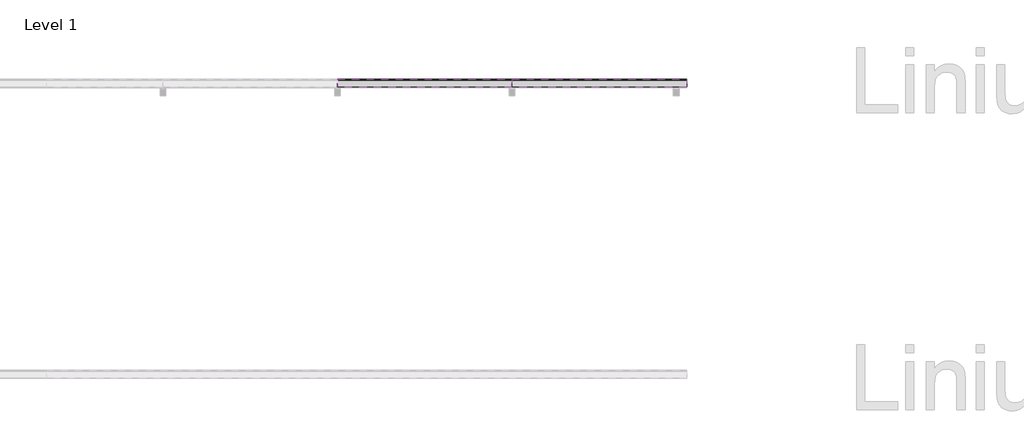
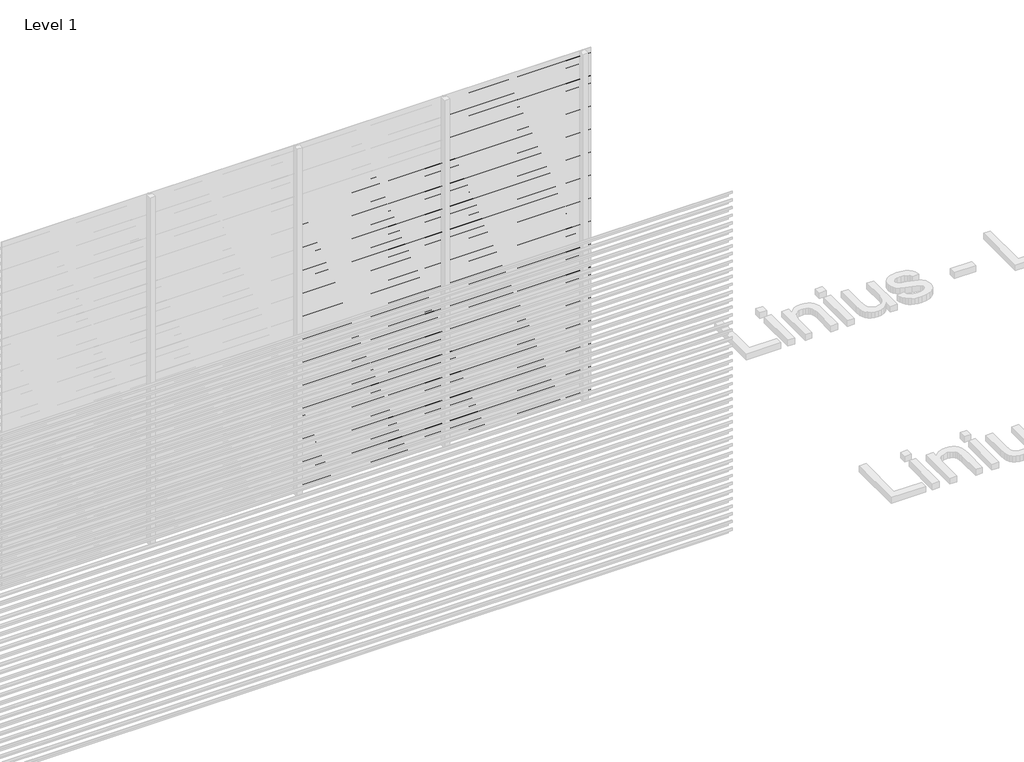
# One storey, part 69 of 540: 83 proxies.
"""IFC4 building model written with IfcOpenShell, lengths in millimetres."""

from ifc_helpers import new_model, si_unit, frame, origin, place, context, project, spatial, polyline, outline, extrude, element, save

model = new_model("IFC4")

# Units and contexts
model_context = context("Model", 3, world=origin())
ifc_project = project(units=[si_unit("LENGTHUNIT", "METRE", prefix="MILLI")], contexts=[model_context])

# Site, building, storey
site = spatial("IfcSite", under=ifc_project)
building = spatial("IfcBuilding", under=site)
storey = spatial("IfcBuildingStorey", under=building, Name="Level 1", Elevation=0.0)

# Proxies
placement = place(None, origin())
element("IfcBuildingElementProxy", 1, Name="Wall Sweeps", at=placement, inside=storey, context=model_context, shape_type="SweptSolid", body=[
    extrude(outline(polyline([(36581.0540136, 2913.5), (36581.0540136, 2893.5), (36579.8040136, 2894.2216933), (36579.8040136, 2912.7872415), (36526.0540136, 2950.3158044), (36526.0540136, 2970.0), (36527.3040136, 2970.0), (36527.3040136, 2951.0285629), (36581.0540136, 2913.5)])), frame((5266.6208095, 0.0, 0.0), z_axis=(1.0, 0.0, 0.0), x_axis=(0.0, 1.0, 0.0)), (0.0, 0.0, 1.0), 1200.0000002),
])
element("IfcBuildingElementProxy", 2, Name="Wall Sweeps", at=placement, inside=storey, context=model_context, shape_type="SweptSolid", body=[
    extrude(outline(polyline([(36581.0540136, 2847.5), (36581.0540136, 2827.5), (36579.8040136, 2828.2216933), (36579.8040136, 2846.7872415), (36526.0540136, 2884.3158044), (36526.0540136, 2904.0), (36527.3040136, 2904.0), (36527.3040136, 2885.0285629), (36581.0540136, 2847.5)])), frame((5266.6208095, 0.0, 0.0), z_axis=(1.0, 0.0, 0.0), x_axis=(0.0, 1.0, 0.0)), (0.0, 0.0, 1.0), 1200.0000002),
])
element("IfcBuildingElementProxy", 3, Name="Wall Sweeps", at=placement, inside=storey, context=model_context, shape_type="SweptSolid", body=[
    extrude(outline(polyline([(36581.0540136, 2781.5), (36581.0540136, 2761.5), (36579.8040136, 2762.2216933), (36579.8040136, 2780.7872415), (36526.0540136, 2818.3158044), (36526.0540136, 2838.0), (36527.3040136, 2838.0), (36527.3040136, 2819.0285629), (36581.0540136, 2781.5)])), frame((5266.6208095, 0.0, 0.0), z_axis=(1.0, 0.0, 0.0), x_axis=(0.0, 1.0, 0.0)), (0.0, 0.0, 1.0), 1200.0000002),
])
element("IfcBuildingElementProxy", 4, Name="Wall Sweeps", at=placement, inside=storey, context=model_context, shape_type="SweptSolid", body=[
    extrude(outline(polyline([(36581.0540136, 2715.5), (36581.0540136, 2695.5), (36579.8040136, 2696.2216933), (36579.8040136, 2714.7872415), (36526.0540136, 2752.3158044), (36526.0540136, 2772.0), (36527.3040136, 2772.0), (36527.3040136, 2753.0285629), (36581.0540136, 2715.5)])), frame((5266.6208095, 0.0, 0.0), z_axis=(1.0, 0.0, 0.0), x_axis=(0.0, 1.0, 0.0)), (0.0, 0.0, 1.0), 1200.0000002),
])
element("IfcBuildingElementProxy", 5, Name="Wall Sweeps", at=placement, inside=storey, context=model_context, shape_type="SweptSolid", body=[
    extrude(outline(polyline([(36581.0540136, 2649.5), (36581.0540136, 2629.5), (36579.8040136, 2630.2216933), (36579.8040136, 2648.7872415), (36526.0540136, 2686.3158044), (36526.0540136, 2706.0), (36527.3040136, 2706.0), (36527.3040136, 2687.0285629), (36581.0540136, 2649.5)])), frame((5266.6208095, 0.0, 0.0), z_axis=(1.0, 0.0, 0.0), x_axis=(0.0, 1.0, 0.0)), (0.0, 0.0, 1.0), 1200.0000002),
])
element("IfcBuildingElementProxy", 6, Name="Wall Sweeps", at=placement, inside=storey, context=model_context, shape_type="SweptSolid", body=[
    extrude(outline(polyline([(36581.0540136, 2583.5), (36581.0540136, 2563.5), (36579.8040136, 2564.2216933), (36579.8040136, 2582.7872415), (36526.0540136, 2620.3158044), (36526.0540136, 2640.0), (36527.3040136, 2640.0), (36527.3040136, 2621.0285629), (36581.0540136, 2583.5)])), frame((5266.6208095, 0.0, 0.0), z_axis=(1.0, 0.0, 0.0), x_axis=(0.0, 1.0, 0.0)), (0.0, 0.0, 1.0), 1200.0000002),
])
element("IfcBuildingElementProxy", 7, Name="Wall Sweeps", at=placement, inside=storey, context=model_context, shape_type="SweptSolid", body=[
    extrude(outline(polyline([(36581.0540136, 2517.5), (36581.0540136, 2497.5), (36579.8040136, 2498.2216933), (36579.8040136, 2516.7872415), (36526.0540136, 2554.3158044), (36526.0540136, 2574.0), (36527.3040136, 2574.0), (36527.3040136, 2555.0285629), (36581.0540136, 2517.5)])), frame((5266.6208095, 0.0, 0.0), z_axis=(1.0, 0.0, 0.0), x_axis=(0.0, 1.0, 0.0)), (0.0, 0.0, 1.0), 1200.0000002),
])
element("IfcBuildingElementProxy", 8, Name="Wall Sweeps", at=placement, inside=storey, context=model_context, shape_type="SweptSolid", body=[
    extrude(outline(polyline([(36581.0540136, 2451.5), (36581.0540136, 2431.5), (36579.8040136, 2432.2216933), (36579.8040136, 2450.7872415), (36526.0540136, 2488.3158044), (36526.0540136, 2508.0), (36527.3040136, 2508.0), (36527.3040136, 2489.0285629), (36581.0540136, 2451.5)])), frame((5266.6208095, 0.0, 0.0), z_axis=(1.0, 0.0, 0.0), x_axis=(0.0, 1.0, 0.0)), (0.0, 0.0, 1.0), 1200.0000002),
])
element("IfcBuildingElementProxy", 9, Name="Wall Sweeps", at=placement, inside=storey, context=model_context, shape_type="SweptSolid", body=[
    extrude(outline(polyline([(36581.0540136, 2385.5), (36581.0540136, 2365.5), (36579.8040136, 2366.2216933), (36579.8040136, 2384.7872415), (36526.0540136, 2422.3158044), (36526.0540136, 2442.0), (36527.3040136, 2442.0), (36527.3040136, 2423.0285629), (36581.0540136, 2385.5)])), frame((5266.6208095, 0.0, 0.0), z_axis=(1.0, 0.0, 0.0), x_axis=(0.0, 1.0, 0.0)), (0.0, 0.0, 1.0), 1200.0000002),
])
element("IfcBuildingElementProxy", 10, Name="Wall Sweeps", at=placement, inside=storey, context=model_context, shape_type="SweptSolid", body=[
    extrude(outline(polyline([(36581.0540136, 2319.5), (36581.0540136, 2299.5), (36579.8040136, 2300.2216933), (36579.8040136, 2318.7872415), (36526.0540136, 2356.3158044), (36526.0540136, 2376.0), (36527.3040136, 2376.0), (36527.3040136, 2357.0285629), (36581.0540136, 2319.5)])), frame((5266.6208095, 0.0, 0.0), z_axis=(1.0, 0.0, 0.0), x_axis=(0.0, 1.0, 0.0)), (0.0, 0.0, 1.0), 1200.0000002),
])
element("IfcBuildingElementProxy", 11, Name="Wall Sweeps", at=placement, inside=storey, context=model_context, shape_type="SweptSolid", body=[
    extrude(outline(polyline([(36581.0540136, 2253.5), (36581.0540136, 2233.5), (36579.8040136, 2234.2216933), (36579.8040136, 2252.7872415), (36526.0540136, 2290.3158044), (36526.0540136, 2310.0), (36527.3040136, 2310.0), (36527.3040136, 2291.0285629), (36581.0540136, 2253.5)])), frame((5266.6208095, 0.0, 0.0), z_axis=(1.0, 0.0, 0.0), x_axis=(0.0, 1.0, 0.0)), (0.0, 0.0, 1.0), 1200.0000002),
])
element("IfcBuildingElementProxy", 12, Name="Wall Sweeps", at=placement, inside=storey, context=model_context, shape_type="SweptSolid", body=[
    extrude(outline(polyline([(36581.0540136, 2187.5), (36581.0540136, 2167.5), (36579.8040136, 2168.2216933), (36579.8040136, 2186.7872415), (36526.0540136, 2224.3158044), (36526.0540136, 2244.0), (36527.3040136, 2244.0), (36527.3040136, 2225.0285629), (36581.0540136, 2187.5)])), frame((5266.6208095, 0.0, 0.0), z_axis=(1.0, 0.0, 0.0), x_axis=(0.0, 1.0, 0.0)), (0.0, 0.0, 1.0), 1200.0000002),
])
element("IfcBuildingElementProxy", 13, Name="Wall Sweeps", at=placement, inside=storey, context=model_context, shape_type="SweptSolid", body=[
    extrude(outline(polyline([(36581.0540136, 2121.5), (36581.0540136, 2101.5), (36579.8040136, 2102.2216933), (36579.8040136, 2120.7872415), (36526.0540136, 2158.3158044), (36526.0540136, 2178.0), (36527.3040136, 2178.0), (36527.3040136, 2159.0285629), (36581.0540136, 2121.5)])), frame((5266.6208095, 0.0, 0.0), z_axis=(1.0, 0.0, 0.0), x_axis=(0.0, 1.0, 0.0)), (0.0, 0.0, 1.0), 1200.0000002),
])
element("IfcBuildingElementProxy", 14, Name="Wall Sweeps", at=placement, inside=storey, context=model_context, shape_type="SweptSolid", body=[
    extrude(outline(polyline([(36581.0540136, 2055.5), (36581.0540136, 2035.5), (36579.8040136, 2036.2216933), (36579.8040136, 2054.7872415), (36526.0540136, 2092.3158044), (36526.0540136, 2112.0), (36527.3040136, 2112.0), (36527.3040136, 2093.0285629), (36581.0540136, 2055.5)])), frame((5266.6208095, 0.0, 0.0), z_axis=(1.0, 0.0, 0.0), x_axis=(0.0, 1.0, 0.0)), (0.0, 0.0, 1.0), 1200.0000002),
])
element("IfcBuildingElementProxy", 15, Name="Wall Sweeps", at=placement, inside=storey, context=model_context, shape_type="SweptSolid", body=[
    extrude(outline(polyline([(36581.0540136, 1989.5), (36581.0540136, 1969.5), (36579.8040136, 1970.2216933), (36579.8040136, 1988.7872415), (36526.0540136, 2026.3158044), (36526.0540136, 2046.0), (36527.3040136, 2046.0), (36527.3040136, 2027.0285629), (36581.0540136, 1989.5)])), frame((5266.6208095, 0.0, 0.0), z_axis=(1.0, 0.0, 0.0), x_axis=(0.0, 1.0, 0.0)), (0.0, 0.0, 1.0), 1200.0000002),
])
element("IfcBuildingElementProxy", 16, Name="Wall Sweeps", at=placement, inside=storey, context=model_context, shape_type="SweptSolid", body=[
    extrude(outline(polyline([(36581.0540136, 1923.5), (36581.0540136, 1903.5), (36579.8040136, 1904.2216933), (36579.8040136, 1922.7872415), (36526.0540136, 1960.3158044), (36526.0540136, 1980.0), (36527.3040136, 1980.0), (36527.3040136, 1961.0285629), (36581.0540136, 1923.5)])), frame((5266.6208095, 0.0, 0.0), z_axis=(1.0, 0.0, 0.0), x_axis=(0.0, 1.0, 0.0)), (0.0, 0.0, 1.0), 1200.0000002),
])
element("IfcBuildingElementProxy", 17, Name="Wall Sweeps", at=placement, inside=storey, context=model_context, shape_type="SweptSolid", body=[
    extrude(outline(polyline([(36581.0540136, 1857.5), (36581.0540136, 1837.5), (36579.8040136, 1838.2216933), (36579.8040136, 1856.7872415), (36526.0540136, 1894.3158044), (36526.0540136, 1914.0), (36527.3040136, 1914.0), (36527.3040136, 1895.0285629), (36581.0540136, 1857.5)])), frame((5266.6208095, 0.0, 0.0), z_axis=(1.0, 0.0, 0.0), x_axis=(0.0, 1.0, 0.0)), (0.0, 0.0, 1.0), 1200.0000002),
])
element("IfcBuildingElementProxy", 18, Name="Wall Sweeps", at=placement, inside=storey, context=model_context, shape_type="SweptSolid", body=[
    extrude(outline(polyline([(36581.0540136, 1791.5), (36581.0540136, 1771.5), (36579.8040136, 1772.2216933), (36579.8040136, 1790.7872415), (36526.0540136, 1828.3158044), (36526.0540136, 1848.0), (36527.3040136, 1848.0), (36527.3040136, 1829.0285629), (36581.0540136, 1791.5)])), frame((5266.6208095, 0.0, 0.0), z_axis=(1.0, 0.0, 0.0), x_axis=(0.0, 1.0, 0.0)), (0.0, 0.0, 1.0), 1200.0000002),
])
element("IfcBuildingElementProxy", 19, Name="Wall Sweeps", at=placement, inside=storey, context=model_context, shape_type="SweptSolid", body=[
    extrude(outline(polyline([(36581.0540136, 1725.5), (36581.0540136, 1705.5), (36579.8040136, 1706.2216933), (36579.8040136, 1724.7872415), (36526.0540136, 1762.3158044), (36526.0540136, 1782.0), (36527.3040136, 1782.0), (36527.3040136, 1763.0285629), (36581.0540136, 1725.5)])), frame((5266.6208095, 0.0, 0.0), z_axis=(1.0, 0.0, 0.0), x_axis=(0.0, 1.0, 0.0)), (0.0, 0.0, 1.0), 1200.0000002),
])
element("IfcBuildingElementProxy", 20, Name="Wall Sweeps", at=placement, inside=storey, context=model_context, shape_type="SweptSolid", body=[
    extrude(outline(polyline([(36581.0540136, 1659.5), (36581.0540136, 1639.5), (36579.8040136, 1640.2216933), (36579.8040136, 1658.7872415), (36526.0540136, 1696.3158044), (36526.0540136, 1716.0), (36527.3040136, 1716.0), (36527.3040136, 1697.0285629), (36581.0540136, 1659.5)])), frame((5266.6208095, 0.0, 0.0), z_axis=(1.0, 0.0, 0.0), x_axis=(0.0, 1.0, 0.0)), (0.0, 0.0, 1.0), 1200.0000002),
])
element("IfcBuildingElementProxy", 21, Name="Wall Sweeps", at=placement, inside=storey, context=model_context, shape_type="SweptSolid", body=[
    extrude(outline(polyline([(36581.0540136, 1593.5), (36581.0540136, 1573.5), (36579.8040136, 1574.2216933), (36579.8040136, 1592.7872415), (36526.0540136, 1630.3158044), (36526.0540136, 1650.0), (36527.3040136, 1650.0), (36527.3040136, 1631.0285629), (36581.0540136, 1593.5)])), frame((5266.6208095, 0.0, 0.0), z_axis=(1.0, 0.0, 0.0), x_axis=(0.0, 1.0, 0.0)), (0.0, 0.0, 1.0), 1200.0000002),
])
element("IfcBuildingElementProxy", 22, Name="Wall Sweeps", at=placement, inside=storey, context=model_context, shape_type="SweptSolid", body=[
    extrude(outline(polyline([(36581.0540136, 1527.5), (36581.0540136, 1507.5), (36579.8040136, 1508.2216933), (36579.8040136, 1526.7872415), (36526.0540136, 1564.3158044), (36526.0540136, 1584.0), (36527.3040136, 1584.0), (36527.3040136, 1565.0285629), (36581.0540136, 1527.5)])), frame((5266.6208095, 0.0, 0.0), z_axis=(1.0, 0.0, 0.0), x_axis=(0.0, 1.0, 0.0)), (0.0, 0.0, 1.0), 1200.0000002),
])
element("IfcBuildingElementProxy", 23, Name="Wall Sweeps", at=placement, inside=storey, context=model_context, shape_type="SweptSolid", body=[
    extrude(outline(polyline([(36581.0540136, 1461.5), (36581.0540136, 1441.5), (36579.8040136, 1442.2216933), (36579.8040136, 1460.7872415), (36526.0540136, 1498.3158044), (36526.0540136, 1518.0), (36527.3040136, 1518.0), (36527.3040136, 1499.0285629), (36581.0540136, 1461.5)])), frame((5266.6208095, 0.0, 0.0), z_axis=(1.0, 0.0, 0.0), x_axis=(0.0, 1.0, 0.0)), (0.0, 0.0, 1.0), 1200.0000002),
])
element("IfcBuildingElementProxy", 24, Name="Wall Sweeps", at=placement, inside=storey, context=model_context, shape_type="SweptSolid", body=[
    extrude(outline(polyline([(36581.0540136, 1395.5), (36581.0540136, 1375.5), (36579.8040136, 1376.2216933), (36579.8040136, 1394.7872415), (36526.0540136, 1432.3158044), (36526.0540136, 1452.0), (36527.3040136, 1452.0), (36527.3040136, 1433.0285629), (36581.0540136, 1395.5)])), frame((5266.6208095, 0.0, 0.0), z_axis=(1.0, 0.0, 0.0), x_axis=(0.0, 1.0, 0.0)), (0.0, 0.0, 1.0), 1200.0000002),
])
element("IfcBuildingElementProxy", 25, Name="Wall Sweeps", at=placement, inside=storey, context=model_context, shape_type="SweptSolid", body=[
    extrude(outline(polyline([(36581.0540136, 1329.5), (36581.0540136, 1309.5), (36579.8040136, 1310.2216933), (36579.8040136, 1328.7872415), (36526.0540136, 1366.3158044), (36526.0540136, 1386.0), (36527.3040136, 1386.0), (36527.3040136, 1367.0285629), (36581.0540136, 1329.5)])), frame((5266.6208095, 0.0, 0.0), z_axis=(1.0, 0.0, 0.0), x_axis=(0.0, 1.0, 0.0)), (0.0, 0.0, 1.0), 1200.0000002),
])
element("IfcBuildingElementProxy", 26, Name="Wall Sweeps", at=placement, inside=storey, context=model_context, shape_type="SweptSolid", body=[
    extrude(outline(polyline([(36581.0540136, 1263.5), (36581.0540136, 1243.5), (36579.8040136, 1244.2216933), (36579.8040136, 1262.7872415), (36526.0540136, 1300.3158044), (36526.0540136, 1320.0), (36527.3040136, 1320.0), (36527.3040136, 1301.0285629), (36581.0540136, 1263.5)])), frame((5266.6208095, 0.0, 0.0), z_axis=(1.0, 0.0, 0.0), x_axis=(0.0, 1.0, 0.0)), (0.0, 0.0, 1.0), 1200.0000002),
])
element("IfcBuildingElementProxy", 27, Name="Wall Sweeps", at=placement, inside=storey, context=model_context, shape_type="SweptSolid", body=[
    extrude(outline(polyline([(36581.0540136, 1197.5), (36581.0540136, 1177.5), (36579.8040136, 1178.2216933), (36579.8040136, 1196.7872415), (36526.0540136, 1234.3158044), (36526.0540136, 1254.0), (36527.3040136, 1254.0), (36527.3040136, 1235.0285629), (36581.0540136, 1197.5)])), frame((5266.6208095, 0.0, 0.0), z_axis=(1.0, 0.0, 0.0), x_axis=(0.0, 1.0, 0.0)), (0.0, 0.0, 1.0), 1200.0000002),
])
element("IfcBuildingElementProxy", 28, Name="Wall Sweeps", at=placement, inside=storey, context=model_context, shape_type="SweptSolid", body=[
    extrude(outline(polyline([(36581.0540136, 1131.5), (36581.0540136, 1111.5), (36579.8040136, 1112.2216933), (36579.8040136, 1130.7872415), (36526.0540136, 1168.3158044), (36526.0540136, 1188.0), (36527.3040136, 1188.0), (36527.3040136, 1169.0285629), (36581.0540136, 1131.5)])), frame((5266.6208095, 0.0, 0.0), z_axis=(1.0, 0.0, 0.0), x_axis=(0.0, 1.0, 0.0)), (0.0, 0.0, 1.0), 1200.0000002),
])
element("IfcBuildingElementProxy", 29, Name="Wall Sweeps", at=placement, inside=storey, context=model_context, shape_type="SweptSolid", body=[
    extrude(outline(polyline([(36581.0540136, 1065.5), (36581.0540136, 1045.5), (36579.8040136, 1046.2216933), (36579.8040136, 1064.7872415), (36526.0540136, 1102.3158044), (36526.0540136, 1122.0), (36527.3040136, 1122.0), (36527.3040136, 1103.0285629), (36581.0540136, 1065.5)])), frame((5266.6208095, 0.0, 0.0), z_axis=(1.0, 0.0, 0.0), x_axis=(0.0, 1.0, 0.0)), (0.0, 0.0, 1.0), 1200.0000002),
])
element("IfcBuildingElementProxy", 30, Name="Wall Sweeps", at=placement, inside=storey, context=model_context, shape_type="SweptSolid", body=[
    extrude(outline(polyline([(36581.0540136, 999.5), (36581.0540136, 979.5), (36579.8040136, 980.2216933), (36579.8040136, 998.7872415), (36526.0540136, 1036.3158044), (36526.0540136, 1056.0), (36527.3040136, 1056.0), (36527.3040136, 1037.0285629), (36581.0540136, 999.5)])), frame((5266.6208095, 0.0, 0.0), z_axis=(1.0, 0.0, 0.0), x_axis=(0.0, 1.0, 0.0)), (0.0, 0.0, 1.0), 1200.0000002),
])
element("IfcBuildingElementProxy", 31, Name="Wall Sweeps", at=placement, inside=storey, context=model_context, shape_type="SweptSolid", body=[
    extrude(outline(polyline([(36581.0540136, 933.5), (36581.0540136, 913.5), (36579.8040136, 914.2216933), (36579.8040136, 932.7872415), (36526.0540136, 970.3158044), (36526.0540136, 990.0), (36527.3040136, 990.0), (36527.3040136, 971.0285629), (36581.0540136, 933.5)])), frame((5266.6208095, 0.0, 0.0), z_axis=(1.0, 0.0, 0.0), x_axis=(0.0, 1.0, 0.0)), (0.0, 0.0, 1.0), 1200.0000002),
])
element("IfcBuildingElementProxy", 32, Name="Wall Sweeps", at=placement, inside=storey, context=model_context, shape_type="SweptSolid", body=[
    extrude(outline(polyline([(36581.0540136, 867.5), (36581.0540136, 847.5), (36579.8040136, 848.2216933), (36579.8040136, 866.7872415), (36526.0540136, 904.3158044), (36526.0540136, 924.0), (36527.3040136, 924.0), (36527.3040136, 905.0285629), (36581.0540136, 867.5)])), frame((5266.6208095, 0.0, 0.0), z_axis=(1.0, 0.0, 0.0), x_axis=(0.0, 1.0, 0.0)), (0.0, 0.0, 1.0), 1200.0000002),
])
element("IfcBuildingElementProxy", 33, Name="Wall Sweeps", at=placement, inside=storey, context=model_context, shape_type="SweptSolid", body=[
    extrude(outline(polyline([(36581.0540136, 801.5), (36581.0540136, 781.5), (36579.8040136, 782.2216933), (36579.8040136, 800.7872415), (36526.0540136, 838.3158044), (36526.0540136, 858.0), (36527.3040136, 858.0), (36527.3040136, 839.0285629), (36581.0540136, 801.5)])), frame((5266.6208095, 0.0, 0.0), z_axis=(1.0, 0.0, 0.0), x_axis=(0.0, 1.0, 0.0)), (0.0, 0.0, 1.0), 1200.0000002),
])
element("IfcBuildingElementProxy", 34, Name="Wall Sweeps", at=placement, inside=storey, context=model_context, shape_type="SweptSolid", body=[
    extrude(outline(polyline([(36581.0540136, 735.5), (36581.0540136, 715.5), (36579.8040136, 716.2216933), (36579.8040136, 734.7872415), (36526.0540136, 772.3158044), (36526.0540136, 792.0), (36527.3040136, 792.0), (36527.3040136, 773.0285629), (36581.0540136, 735.5)])), frame((5266.6208095, 0.0, 0.0), z_axis=(1.0, 0.0, 0.0), x_axis=(0.0, 1.0, 0.0)), (0.0, 0.0, 1.0), 1200.0000002),
])
element("IfcBuildingElementProxy", 35, Name="Wall Sweeps", at=placement, inside=storey, context=model_context, shape_type="SweptSolid", body=[
    extrude(outline(polyline([(36581.0540136, 669.5), (36581.0540136, 649.5), (36579.8040136, 650.2216933), (36579.8040136, 668.7872415), (36526.0540136, 706.3158044), (36526.0540136, 726.0), (36527.3040136, 726.0), (36527.3040136, 707.0285629), (36581.0540136, 669.5)])), frame((5266.6208095, 0.0, 0.0), z_axis=(1.0, 0.0, 0.0), x_axis=(0.0, 1.0, 0.0)), (0.0, 0.0, 1.0), 1200.0000002),
])
element("IfcBuildingElementProxy", 36, Name="Wall Sweeps", at=placement, inside=storey, context=model_context, shape_type="SweptSolid", body=[
    extrude(outline(polyline([(36581.0540136, 603.5), (36581.0540136, 583.5), (36579.8040136, 584.2216933), (36579.8040136, 602.7872415), (36526.0540136, 640.3158044), (36526.0540136, 660.0), (36527.3040136, 660.0), (36527.3040136, 641.0285629), (36581.0540136, 603.5)])), frame((5266.6208095, 0.0, 0.0), z_axis=(1.0, 0.0, 0.0), x_axis=(0.0, 1.0, 0.0)), (0.0, 0.0, 1.0), 1200.0000002),
])
element("IfcBuildingElementProxy", 37, Name="Wall Sweeps", at=placement, inside=storey, context=model_context, shape_type="SweptSolid", body=[
    extrude(outline(polyline([(36581.0540136, 537.5), (36581.0540136, 517.5), (36579.8040136, 518.2216933), (36579.8040136, 536.7872415), (36526.0540136, 574.3158044), (36526.0540136, 594.0), (36527.3040136, 594.0), (36527.3040136, 575.0285629), (36581.0540136, 537.5)])), frame((5266.6208095, 0.0, 0.0), z_axis=(1.0, 0.0, 0.0), x_axis=(0.0, 1.0, 0.0)), (0.0, 0.0, 1.0), 1200.0000002),
])
element("IfcBuildingElementProxy", 38, Name="Wall Sweeps", at=placement, inside=storey, context=model_context, shape_type="SweptSolid", body=[
    extrude(outline(polyline([(36581.0540136, 471.5), (36581.0540136, 451.5), (36579.8040136, 452.2216933), (36579.8040136, 470.7872415), (36526.0540136, 508.3158044), (36526.0540136, 528.0), (36527.3040136, 528.0), (36527.3040136, 509.0285629), (36581.0540136, 471.5)])), frame((5266.6208095, 0.0, 0.0), z_axis=(1.0, 0.0, 0.0), x_axis=(0.0, 1.0, 0.0)), (0.0, 0.0, 1.0), 1200.0000002),
])
element("IfcBuildingElementProxy", 39, Name="Wall Sweeps", at=placement, inside=storey, context=model_context, shape_type="SweptSolid", body=[
    extrude(outline(polyline([(36581.0540136, 405.5), (36581.0540136, 385.5), (36579.8040136, 386.2216933), (36579.8040136, 404.7872415), (36526.0540136, 442.3158044), (36526.0540136, 462.0), (36527.3040136, 462.0), (36527.3040136, 443.0285629), (36581.0540136, 405.5)])), frame((5266.6208095, 0.0, 0.0), z_axis=(1.0, 0.0, 0.0), x_axis=(0.0, 1.0, 0.0)), (0.0, 0.0, 1.0), 1200.0000002),
])
element("IfcBuildingElementProxy", 40, Name="Wall Sweeps", at=placement, inside=storey, context=model_context, shape_type="SweptSolid", body=[
    extrude(outline(polyline([(36581.0540136, 339.5), (36581.0540136, 319.5), (36579.8040136, 320.2216933), (36579.8040136, 338.7872415), (36526.0540136, 376.3158044), (36526.0540136, 396.0), (36527.3040136, 396.0), (36527.3040136, 377.0285629), (36581.0540136, 339.5)])), frame((5266.6208095, 0.0, 0.0), z_axis=(1.0, 0.0, 0.0), x_axis=(0.0, 1.0, 0.0)), (0.0, 0.0, 1.0), 1200.0000002),
])
element("IfcBuildingElementProxy", 41, Name="Wall Sweeps", at=placement, inside=storey, context=model_context, shape_type="SweptSolid", body=[
    extrude(outline(polyline([(36581.0540136, 273.5), (36581.0540136, 253.5), (36579.8040136, 254.2216933), (36579.8040136, 272.7872415), (36526.0540136, 310.3158044), (36526.0540136, 330.0), (36527.3040136, 330.0), (36527.3040136, 311.0285629), (36581.0540136, 273.5)])), frame((5266.6208095, 0.0, 0.0), z_axis=(1.0, 0.0, 0.0), x_axis=(0.0, 1.0, 0.0)), (0.0, 0.0, 1.0), 1200.0000002),
])
element("IfcBuildingElementProxy", 42, Name="Wall Sweeps", at=placement, inside=storey, context=model_context, shape_type="SweptSolid", body=[
    extrude(outline(polyline([(36581.0540136, 207.5), (36581.0540136, 187.5), (36579.8040136, 188.2216933), (36579.8040136, 206.7872415), (36526.0540136, 244.3158044), (36526.0540136, 264.0), (36527.3040136, 264.0), (36527.3040136, 245.0285629), (36581.0540136, 207.5)])), frame((5266.6208095, 0.0, 0.0), z_axis=(1.0, 0.0, 0.0), x_axis=(0.0, 1.0, 0.0)), (0.0, 0.0, 1.0), 1200.0000002),
])
element("IfcBuildingElementProxy", 43, Name="Wall Sweeps", at=placement, inside=storey, context=model_context, shape_type="SweptSolid", body=[
    extrude(outline(polyline([(36581.0540136, 141.5), (36581.0540136, 121.5), (36579.8040136, 122.2216933), (36579.8040136, 140.7872415), (36526.0540136, 178.3158044), (36526.0540136, 198.0), (36527.3040136, 198.0), (36527.3040136, 179.0285629), (36581.0540136, 141.5)])), frame((5266.6208095, 0.0, 0.0), z_axis=(1.0, 0.0, 0.0), x_axis=(0.0, 1.0, 0.0)), (0.0, 0.0, 1.0), 1200.0000002),
])
element("IfcBuildingElementProxy", 44, Name="Wall Sweeps", at=placement, inside=storey, context=model_context, shape_type="SweptSolid", body=[
    extrude(outline(polyline([(36581.0540136, 75.5), (36581.0540136, 55.5), (36579.8040136, 56.2216933), (36579.8040136, 74.7872415), (36526.0540136, 112.3158044), (36526.0540136, 132.0), (36527.3040136, 132.0), (36527.3040136, 113.0285629), (36581.0540136, 75.5)])), frame((5266.6208095, 0.0, 0.0), z_axis=(1.0, 0.0, 0.0), x_axis=(0.0, 1.0, 0.0)), (0.0, 0.0, 1.0), 1200.0000002),
])
element("IfcBuildingElementProxy", 45, Name="Wall Sweeps", at=placement, inside=storey, context=model_context, shape_type="SweptSolid", body=[
    extrude(outline(polyline([(36581.0540136, 9.5), (36581.0540136, -10.5), (36579.8040136, -9.7783067), (36579.8040136, 8.7872415), (36526.0540136, 46.3158044), (36526.0540136, 66.0), (36527.3040136, 66.0), (36527.3040136, 47.0285629), (36581.0540136, 9.5)])), frame((5266.6208095, 0.0, 0.0), z_axis=(1.0, 0.0, 0.0), x_axis=(0.0, 1.0, 0.0)), (0.0, 0.0, 1.0), 1200.0000002),
])
element("IfcBuildingElementProxy", 46, Name="Wall Sweeps", at=placement, inside=storey, context=model_context, shape_type="SweptSolid", body=[
    extrude(outline(polyline([(36581.0540136, 2451.5), (36581.0540136, 2431.5), (36579.8040136, 2432.2216933), (36579.8040136, 2450.7872415), (36526.0540136, 2488.3158044), (36526.0540136, 2508.0), (36527.3040136, 2508.0), (36527.3040136, 2489.0285629), (36581.0540136, 2451.5)])), frame((4066.6208096, 0.0, 0.0), z_axis=(1.0, 0.0, 0.0), x_axis=(0.0, 1.0, 0.0)), (0.0, 0.0, 1.0), 1199.9999999),
])
element("IfcBuildingElementProxy", 47, Name="Wall Sweeps", at=placement, inside=storey, context=model_context, shape_type="SweptSolid", body=[
    extrude(outline(polyline([(36581.0540136, 2385.5), (36581.0540136, 2365.5), (36579.8040136, 2366.2216933), (36579.8040136, 2384.7872415), (36526.0540136, 2422.3158044), (36526.0540136, 2442.0), (36527.3040136, 2442.0), (36527.3040136, 2423.0285629), (36581.0540136, 2385.5)])), frame((4066.6208096, 0.0, 0.0), z_axis=(1.0, 0.0, 0.0), x_axis=(0.0, 1.0, 0.0)), (0.0, 0.0, 1.0), 1199.9999999),
])
element("IfcBuildingElementProxy", 48, Name="Wall Sweeps", at=placement, inside=storey, context=model_context, shape_type="SweptSolid", body=[
    extrude(outline(polyline([(36581.0540136, 2319.5), (36581.0540136, 2299.5), (36579.8040136, 2300.2216933), (36579.8040136, 2318.7872415), (36526.0540136, 2356.3158044), (36526.0540136, 2376.0), (36527.3040136, 2376.0), (36527.3040136, 2357.0285629), (36581.0540136, 2319.5)])), frame((4066.6208096, 0.0, 0.0), z_axis=(1.0, 0.0, 0.0), x_axis=(0.0, 1.0, 0.0)), (0.0, 0.0, 1.0), 1199.9999999),
])
element("IfcBuildingElementProxy", 49, Name="Wall Sweeps", at=placement, inside=storey, context=model_context, shape_type="SweptSolid", body=[
    extrude(outline(polyline([(36581.0540136, 2253.5), (36581.0540136, 2233.5), (36579.8040136, 2234.2216933), (36579.8040136, 2252.7872415), (36526.0540136, 2290.3158044), (36526.0540136, 2310.0), (36527.3040136, 2310.0), (36527.3040136, 2291.0285629), (36581.0540136, 2253.5)])), frame((4066.6208096, 0.0, 0.0), z_axis=(1.0, 0.0, 0.0), x_axis=(0.0, 1.0, 0.0)), (0.0, 0.0, 1.0), 1199.9999999),
])
element("IfcBuildingElementProxy", 50, Name="Wall Sweeps", at=placement, inside=storey, context=model_context, shape_type="SweptSolid", body=[
    extrude(outline(polyline([(36581.0540136, 2187.5), (36581.0540136, 2167.5), (36579.8040136, 2168.2216933), (36579.8040136, 2186.7872415), (36526.0540136, 2224.3158044), (36526.0540136, 2244.0), (36527.3040136, 2244.0), (36527.3040136, 2225.0285629), (36581.0540136, 2187.5)])), frame((4066.6208096, 0.0, 0.0), z_axis=(1.0, 0.0, 0.0), x_axis=(0.0, 1.0, 0.0)), (0.0, 0.0, 1.0), 1199.9999999),
])
element("IfcBuildingElementProxy", 51, Name="Wall Sweeps", at=placement, inside=storey, context=model_context, shape_type="SweptSolid", body=[
    extrude(outline(polyline([(36581.0540136, 2121.5), (36581.0540136, 2101.5), (36579.8040136, 2102.2216933), (36579.8040136, 2120.7872415), (36526.0540136, 2158.3158044), (36526.0540136, 2178.0), (36527.3040136, 2178.0), (36527.3040136, 2159.0285629), (36581.0540136, 2121.5)])), frame((4066.6208096, 0.0, 0.0), z_axis=(1.0, 0.0, 0.0), x_axis=(0.0, 1.0, 0.0)), (0.0, 0.0, 1.0), 1199.9999999),
])
element("IfcBuildingElementProxy", 52, Name="Wall Sweeps", at=placement, inside=storey, context=model_context, shape_type="SweptSolid", body=[
    extrude(outline(polyline([(36581.0540136, 2055.5), (36581.0540136, 2035.5), (36579.8040136, 2036.2216933), (36579.8040136, 2054.7872415), (36526.0540136, 2092.3158044), (36526.0540136, 2112.0), (36527.3040136, 2112.0), (36527.3040136, 2093.0285629), (36581.0540136, 2055.5)])), frame((4066.6208096, 0.0, 0.0), z_axis=(1.0, 0.0, 0.0), x_axis=(0.0, 1.0, 0.0)), (0.0, 0.0, 1.0), 1199.9999999),
])
element("IfcBuildingElementProxy", 53, Name="Wall Sweeps", at=placement, inside=storey, context=model_context, shape_type="SweptSolid", body=[
    extrude(outline(polyline([(36581.0540136, 1989.5), (36581.0540136, 1969.5), (36579.8040136, 1970.2216933), (36579.8040136, 1988.7872415), (36526.0540136, 2026.3158044), (36526.0540136, 2046.0), (36527.3040136, 2046.0), (36527.3040136, 2027.0285629), (36581.0540136, 1989.5)])), frame((4066.6208096, 0.0, 0.0), z_axis=(1.0, 0.0, 0.0), x_axis=(0.0, 1.0, 0.0)), (0.0, 0.0, 1.0), 1199.9999999),
])
element("IfcBuildingElementProxy", 54, Name="Wall Sweeps", at=placement, inside=storey, context=model_context, shape_type="SweptSolid", body=[
    extrude(outline(polyline([(36581.0540136, 1923.5), (36581.0540136, 1903.5), (36579.8040136, 1904.2216933), (36579.8040136, 1922.7872415), (36526.0540136, 1960.3158044), (36526.0540136, 1980.0), (36527.3040136, 1980.0), (36527.3040136, 1961.0285629), (36581.0540136, 1923.5)])), frame((4066.6208096, 0.0, 0.0), z_axis=(1.0, 0.0, 0.0), x_axis=(0.0, 1.0, 0.0)), (0.0, 0.0, 1.0), 1199.9999999),
])
element("IfcBuildingElementProxy", 55, Name="Wall Sweeps", at=placement, inside=storey, context=model_context, shape_type="SweptSolid", body=[
    extrude(outline(polyline([(36581.0540136, 1857.5), (36581.0540136, 1837.5), (36579.8040136, 1838.2216933), (36579.8040136, 1856.7872415), (36526.0540136, 1894.3158044), (36526.0540136, 1914.0), (36527.3040136, 1914.0), (36527.3040136, 1895.0285629), (36581.0540136, 1857.5)])), frame((4066.6208096, 0.0, 0.0), z_axis=(1.0, 0.0, 0.0), x_axis=(0.0, 1.0, 0.0)), (0.0, 0.0, 1.0), 1199.9999999),
])
element("IfcBuildingElementProxy", 56, Name="Wall Sweeps", at=placement, inside=storey, context=model_context, shape_type="SweptSolid", body=[
    extrude(outline(polyline([(36581.0540136, 1791.5), (36581.0540136, 1771.5), (36579.8040136, 1772.2216933), (36579.8040136, 1790.7872415), (36526.0540136, 1828.3158044), (36526.0540136, 1848.0), (36527.3040136, 1848.0), (36527.3040136, 1829.0285629), (36581.0540136, 1791.5)])), frame((4066.6208096, 0.0, 0.0), z_axis=(1.0, 0.0, 0.0), x_axis=(0.0, 1.0, 0.0)), (0.0, 0.0, 1.0), 1199.9999999),
])
element("IfcBuildingElementProxy", 57, Name="Wall Sweeps", at=placement, inside=storey, context=model_context, shape_type="SweptSolid", body=[
    extrude(outline(polyline([(36581.0540136, 1725.5), (36581.0540136, 1705.5), (36579.8040136, 1706.2216933), (36579.8040136, 1724.7872415), (36526.0540136, 1762.3158044), (36526.0540136, 1782.0), (36527.3040136, 1782.0), (36527.3040136, 1763.0285629), (36581.0540136, 1725.5)])), frame((4066.6208096, 0.0, 0.0), z_axis=(1.0, 0.0, 0.0), x_axis=(0.0, 1.0, 0.0)), (0.0, 0.0, 1.0), 1199.9999999),
])
element("IfcBuildingElementProxy", 58, Name="Wall Sweeps", at=placement, inside=storey, context=model_context, shape_type="SweptSolid", body=[
    extrude(outline(polyline([(36581.0540136, 1659.5), (36581.0540136, 1639.5), (36579.8040136, 1640.2216933), (36579.8040136, 1658.7872415), (36526.0540136, 1696.3158044), (36526.0540136, 1716.0), (36527.3040136, 1716.0), (36527.3040136, 1697.0285629), (36581.0540136, 1659.5)])), frame((4066.6208096, 0.0, 0.0), z_axis=(1.0, 0.0, 0.0), x_axis=(0.0, 1.0, 0.0)), (0.0, 0.0, 1.0), 1199.9999999),
])
element("IfcBuildingElementProxy", 59, Name="Wall Sweeps", at=placement, inside=storey, context=model_context, shape_type="SweptSolid", body=[
    extrude(outline(polyline([(36581.0540136, 1593.5), (36581.0540136, 1573.5), (36579.8040136, 1574.2216933), (36579.8040136, 1592.7872415), (36526.0540136, 1630.3158044), (36526.0540136, 1650.0), (36527.3040136, 1650.0), (36527.3040136, 1631.0285629), (36581.0540136, 1593.5)])), frame((4066.6208096, 0.0, 0.0), z_axis=(1.0, 0.0, 0.0), x_axis=(0.0, 1.0, 0.0)), (0.0, 0.0, 1.0), 1199.9999999),
])
element("IfcBuildingElementProxy", 60, Name="Wall Sweeps", at=placement, inside=storey, context=model_context, shape_type="SweptSolid", body=[
    extrude(outline(polyline([(36581.0540136, 1527.5), (36581.0540136, 1507.5), (36579.8040136, 1508.2216933), (36579.8040136, 1526.7872415), (36526.0540136, 1564.3158044), (36526.0540136, 1584.0), (36527.3040136, 1584.0), (36527.3040136, 1565.0285629), (36581.0540136, 1527.5)])), frame((4066.6208096, 0.0, 0.0), z_axis=(1.0, 0.0, 0.0), x_axis=(0.0, 1.0, 0.0)), (0.0, 0.0, 1.0), 1199.9999999),
])
element("IfcBuildingElementProxy", 61, Name="Wall Sweeps", at=placement, inside=storey, context=model_context, shape_type="SweptSolid", body=[
    extrude(outline(polyline([(36581.0540136, 1461.5), (36581.0540136, 1441.5), (36579.8040136, 1442.2216933), (36579.8040136, 1460.7872415), (36526.0540136, 1498.3158044), (36526.0540136, 1518.0), (36527.3040136, 1518.0), (36527.3040136, 1499.0285629), (36581.0540136, 1461.5)])), frame((4066.6208096, 0.0, 0.0), z_axis=(1.0, 0.0, 0.0), x_axis=(0.0, 1.0, 0.0)), (0.0, 0.0, 1.0), 1199.9999999),
])
element("IfcBuildingElementProxy", 62, Name="Wall Sweeps", at=placement, inside=storey, context=model_context, shape_type="SweptSolid", body=[
    extrude(outline(polyline([(36581.0540136, 1395.5), (36581.0540136, 1375.5), (36579.8040136, 1376.2216933), (36579.8040136, 1394.7872415), (36526.0540136, 1432.3158044), (36526.0540136, 1452.0), (36527.3040136, 1452.0), (36527.3040136, 1433.0285629), (36581.0540136, 1395.5)])), frame((4066.6208096, 0.0, 0.0), z_axis=(1.0, 0.0, 0.0), x_axis=(0.0, 1.0, 0.0)), (0.0, 0.0, 1.0), 1199.9999999),
])
element("IfcBuildingElementProxy", 63, Name="Wall Sweeps", at=placement, inside=storey, context=model_context, shape_type="SweptSolid", body=[
    extrude(outline(polyline([(36581.0540136, 1329.5), (36581.0540136, 1309.5), (36579.8040136, 1310.2216933), (36579.8040136, 1328.7872415), (36526.0540136, 1366.3158044), (36526.0540136, 1386.0), (36527.3040136, 1386.0), (36527.3040136, 1367.0285629), (36581.0540136, 1329.5)])), frame((4066.6208096, 0.0, 0.0), z_axis=(1.0, 0.0, 0.0), x_axis=(0.0, 1.0, 0.0)), (0.0, 0.0, 1.0), 1199.9999999),
])
element("IfcBuildingElementProxy", 64, Name="Wall Sweeps", at=placement, inside=storey, context=model_context, shape_type="SweptSolid", body=[
    extrude(outline(polyline([(36581.0540136, 1263.5), (36581.0540136, 1243.5), (36579.8040136, 1244.2216933), (36579.8040136, 1262.7872415), (36526.0540136, 1300.3158044), (36526.0540136, 1320.0), (36527.3040136, 1320.0), (36527.3040136, 1301.0285629), (36581.0540136, 1263.5)])), frame((4066.6208096, 0.0, 0.0), z_axis=(1.0, 0.0, 0.0), x_axis=(0.0, 1.0, 0.0)), (0.0, 0.0, 1.0), 1199.9999999),
])
element("IfcBuildingElementProxy", 65, Name="Wall Sweeps", at=placement, inside=storey, context=model_context, shape_type="SweptSolid", body=[
    extrude(outline(polyline([(36581.0540136, 1197.5), (36581.0540136, 1177.5), (36579.8040136, 1178.2216933), (36579.8040136, 1196.7872415), (36526.0540136, 1234.3158044), (36526.0540136, 1254.0), (36527.3040136, 1254.0), (36527.3040136, 1235.0285629), (36581.0540136, 1197.5)])), frame((4066.6208096, 0.0, 0.0), z_axis=(1.0, 0.0, 0.0), x_axis=(0.0, 1.0, 0.0)), (0.0, 0.0, 1.0), 1199.9999999),
])
element("IfcBuildingElementProxy", 66, Name="Wall Sweeps", at=placement, inside=storey, context=model_context, shape_type="SweptSolid", body=[
    extrude(outline(polyline([(36581.0540136, 1131.5), (36581.0540136, 1111.5), (36579.8040136, 1112.2216933), (36579.8040136, 1130.7872415), (36526.0540136, 1168.3158044), (36526.0540136, 1188.0), (36527.3040136, 1188.0), (36527.3040136, 1169.0285629), (36581.0540136, 1131.5)])), frame((4066.6208096, 0.0, 0.0), z_axis=(1.0, 0.0, 0.0), x_axis=(0.0, 1.0, 0.0)), (0.0, 0.0, 1.0), 1199.9999999),
])
element("IfcBuildingElementProxy", 67, Name="Wall Sweeps", at=placement, inside=storey, context=model_context, shape_type="SweptSolid", body=[
    extrude(outline(polyline([(36581.0540136, 1065.5), (36581.0540136, 1045.5), (36579.8040136, 1046.2216933), (36579.8040136, 1064.7872415), (36526.0540136, 1102.3158044), (36526.0540136, 1122.0), (36527.3040136, 1122.0), (36527.3040136, 1103.0285629), (36581.0540136, 1065.5)])), frame((4066.6208096, 0.0, 0.0), z_axis=(1.0, 0.0, 0.0), x_axis=(0.0, 1.0, 0.0)), (0.0, 0.0, 1.0), 1199.9999999),
])
element("IfcBuildingElementProxy", 68, Name="Wall Sweeps", at=placement, inside=storey, context=model_context, shape_type="SweptSolid", body=[
    extrude(outline(polyline([(36581.0540136, 999.5), (36581.0540136, 979.5), (36579.8040136, 980.2216933), (36579.8040136, 998.7872415), (36526.0540136, 1036.3158044), (36526.0540136, 1056.0), (36527.3040136, 1056.0), (36527.3040136, 1037.0285629), (36581.0540136, 999.5)])), frame((4066.6208096, 0.0, 0.0), z_axis=(1.0, 0.0, 0.0), x_axis=(0.0, 1.0, 0.0)), (0.0, 0.0, 1.0), 1199.9999999),
])
element("IfcBuildingElementProxy", 69, Name="Wall Sweeps", at=placement, inside=storey, context=model_context, shape_type="SweptSolid", body=[
    extrude(outline(polyline([(36581.0540136, 933.5), (36581.0540136, 913.5), (36579.8040136, 914.2216933), (36579.8040136, 932.7872415), (36526.0540136, 970.3158044), (36526.0540136, 990.0), (36527.3040136, 990.0), (36527.3040136, 971.0285629), (36581.0540136, 933.5)])), frame((4066.6208096, 0.0, 0.0), z_axis=(1.0, 0.0, 0.0), x_axis=(0.0, 1.0, 0.0)), (0.0, 0.0, 1.0), 1199.9999999),
])
element("IfcBuildingElementProxy", 70, Name="Wall Sweeps", at=placement, inside=storey, context=model_context, shape_type="SweptSolid", body=[
    extrude(outline(polyline([(36581.0540136, 867.5), (36581.0540136, 847.5), (36579.8040136, 848.2216933), (36579.8040136, 866.7872415), (36526.0540136, 904.3158044), (36526.0540136, 924.0), (36527.3040136, 924.0), (36527.3040136, 905.0285629), (36581.0540136, 867.5)])), frame((4066.6208096, 0.0, 0.0), z_axis=(1.0, 0.0, 0.0), x_axis=(0.0, 1.0, 0.0)), (0.0, 0.0, 1.0), 1199.9999999),
])
element("IfcBuildingElementProxy", 71, Name="Wall Sweeps", at=placement, inside=storey, context=model_context, shape_type="SweptSolid", body=[
    extrude(outline(polyline([(36581.0540136, 801.5), (36581.0540136, 781.5), (36579.8040136, 782.2216933), (36579.8040136, 800.7872415), (36526.0540136, 838.3158044), (36526.0540136, 858.0), (36527.3040136, 858.0), (36527.3040136, 839.0285629), (36581.0540136, 801.5)])), frame((4066.6208096, 0.0, 0.0), z_axis=(1.0, 0.0, 0.0), x_axis=(0.0, 1.0, 0.0)), (0.0, 0.0, 1.0), 1199.9999999),
])
element("IfcBuildingElementProxy", 72, Name="Wall Sweeps", at=placement, inside=storey, context=model_context, shape_type="SweptSolid", body=[
    extrude(outline(polyline([(36581.0540136, 735.5), (36581.0540136, 715.5), (36579.8040136, 716.2216933), (36579.8040136, 734.7872415), (36526.0540136, 772.3158044), (36526.0540136, 792.0), (36527.3040136, 792.0), (36527.3040136, 773.0285629), (36581.0540136, 735.5)])), frame((4066.6208096, 0.0, 0.0), z_axis=(1.0, 0.0, 0.0), x_axis=(0.0, 1.0, 0.0)), (0.0, 0.0, 1.0), 1199.9999999),
])
element("IfcBuildingElementProxy", 73, Name="Wall Sweeps", at=placement, inside=storey, context=model_context, shape_type="SweptSolid", body=[
    extrude(outline(polyline([(36581.0540136, 669.5), (36581.0540136, 649.5), (36579.8040136, 650.2216933), (36579.8040136, 668.7872415), (36526.0540136, 706.3158044), (36526.0540136, 726.0), (36527.3040136, 726.0), (36527.3040136, 707.0285629), (36581.0540136, 669.5)])), frame((4066.6208096, 0.0, 0.0), z_axis=(1.0, 0.0, 0.0), x_axis=(0.0, 1.0, 0.0)), (0.0, 0.0, 1.0), 1199.9999999),
])
element("IfcBuildingElementProxy", 74, Name="Wall Sweeps", at=placement, inside=storey, context=model_context, shape_type="SweptSolid", body=[
    extrude(outline(polyline([(36581.0540136, 603.5), (36581.0540136, 583.5), (36579.8040136, 584.2216933), (36579.8040136, 602.7872415), (36526.0540136, 640.3158044), (36526.0540136, 660.0), (36527.3040136, 660.0), (36527.3040136, 641.0285629), (36581.0540136, 603.5)])), frame((4066.6208096, 0.0, 0.0), z_axis=(1.0, 0.0, 0.0), x_axis=(0.0, 1.0, 0.0)), (0.0, 0.0, 1.0), 1199.9999999),
])
element("IfcBuildingElementProxy", 75, Name="Wall Sweeps", at=placement, inside=storey, context=model_context, shape_type="SweptSolid", body=[
    extrude(outline(polyline([(36581.0540136, 537.5), (36581.0540136, 517.5), (36579.8040136, 518.2216933), (36579.8040136, 536.7872415), (36526.0540136, 574.3158044), (36526.0540136, 594.0), (36527.3040136, 594.0), (36527.3040136, 575.0285629), (36581.0540136, 537.5)])), frame((4066.6208096, 0.0, 0.0), z_axis=(1.0, 0.0, 0.0), x_axis=(0.0, 1.0, 0.0)), (0.0, 0.0, 1.0), 1199.9999999),
])
element("IfcBuildingElementProxy", 76, Name="Wall Sweeps", at=placement, inside=storey, context=model_context, shape_type="SweptSolid", body=[
    extrude(outline(polyline([(36581.0540136, 471.5), (36581.0540136, 451.5), (36579.8040136, 452.2216933), (36579.8040136, 470.7872415), (36526.0540136, 508.3158044), (36526.0540136, 528.0), (36527.3040136, 528.0), (36527.3040136, 509.0285629), (36581.0540136, 471.5)])), frame((4066.6208096, 0.0, 0.0), z_axis=(1.0, 0.0, 0.0), x_axis=(0.0, 1.0, 0.0)), (0.0, 0.0, 1.0), 1199.9999999),
])
element("IfcBuildingElementProxy", 77, Name="Wall Sweeps", at=placement, inside=storey, context=model_context, shape_type="SweptSolid", body=[
    extrude(outline(polyline([(36581.0540136, 405.5), (36581.0540136, 385.5), (36579.8040136, 386.2216933), (36579.8040136, 404.7872415), (36526.0540136, 442.3158044), (36526.0540136, 462.0), (36527.3040136, 462.0), (36527.3040136, 443.0285629), (36581.0540136, 405.5)])), frame((4066.6208096, 0.0, 0.0), z_axis=(1.0, 0.0, 0.0), x_axis=(0.0, 1.0, 0.0)), (0.0, 0.0, 1.0), 1199.9999999),
])
element("IfcBuildingElementProxy", 78, Name="Wall Sweeps", at=placement, inside=storey, context=model_context, shape_type="SweptSolid", body=[
    extrude(outline(polyline([(36581.0540136, 339.5), (36581.0540136, 319.5), (36579.8040136, 320.2216933), (36579.8040136, 338.7872415), (36526.0540136, 376.3158044), (36526.0540136, 396.0), (36527.3040136, 396.0), (36527.3040136, 377.0285629), (36581.0540136, 339.5)])), frame((4066.6208096, 0.0, 0.0), z_axis=(1.0, 0.0, 0.0), x_axis=(0.0, 1.0, 0.0)), (0.0, 0.0, 1.0), 1199.9999999),
])
element("IfcBuildingElementProxy", 79, Name="Wall Sweeps", at=placement, inside=storey, context=model_context, shape_type="SweptSolid", body=[
    extrude(outline(polyline([(36581.0540136, 273.5), (36581.0540136, 253.5), (36579.8040136, 254.2216933), (36579.8040136, 272.7872415), (36526.0540136, 310.3158044), (36526.0540136, 330.0), (36527.3040136, 330.0), (36527.3040136, 311.0285629), (36581.0540136, 273.5)])), frame((4066.6208096, 0.0, 0.0), z_axis=(1.0, 0.0, 0.0), x_axis=(0.0, 1.0, 0.0)), (0.0, 0.0, 1.0), 1199.9999999),
])
element("IfcBuildingElementProxy", 80, Name="Wall Sweeps", at=placement, inside=storey, context=model_context, shape_type="SweptSolid", body=[
    extrude(outline(polyline([(36581.0540136, 207.5), (36581.0540136, 187.5), (36579.8040136, 188.2216933), (36579.8040136, 206.7872415), (36526.0540136, 244.3158044), (36526.0540136, 264.0), (36527.3040136, 264.0), (36527.3040136, 245.0285629), (36581.0540136, 207.5)])), frame((4066.6208096, 0.0, 0.0), z_axis=(1.0, 0.0, 0.0), x_axis=(0.0, 1.0, 0.0)), (0.0, 0.0, 1.0), 1199.9999999),
])
element("IfcBuildingElementProxy", 81, Name="Wall Sweeps", at=placement, inside=storey, context=model_context, shape_type="SweptSolid", body=[
    extrude(outline(polyline([(36581.0540136, 141.5), (36581.0540136, 121.5), (36579.8040136, 122.2216933), (36579.8040136, 140.7872415), (36526.0540136, 178.3158044), (36526.0540136, 198.0), (36527.3040136, 198.0), (36527.3040136, 179.0285629), (36581.0540136, 141.5)])), frame((4066.6208096, 0.0, 0.0), z_axis=(1.0, 0.0, 0.0), x_axis=(0.0, 1.0, 0.0)), (0.0, 0.0, 1.0), 1199.9999999),
])
element("IfcBuildingElementProxy", 82, Name="Wall Sweeps", at=placement, inside=storey, context=model_context, shape_type="SweptSolid", body=[
    extrude(outline(polyline([(36581.0540136, 75.5), (36581.0540136, 55.5), (36579.8040136, 56.2216933), (36579.8040136, 74.7872415), (36526.0540136, 112.3158044), (36526.0540136, 132.0), (36527.3040136, 132.0), (36527.3040136, 113.0285629), (36581.0540136, 75.5)])), frame((4066.6208096, 0.0, 0.0), z_axis=(1.0, 0.0, 0.0), x_axis=(0.0, 1.0, 0.0)), (0.0, 0.0, 1.0), 1199.9999999),
])
element("IfcBuildingElementProxy", 83, Name="Wall Sweeps", at=placement, inside=storey, context=model_context, shape_type="SweptSolid", body=[
    extrude(outline(polyline([(36581.0540136, 9.5), (36581.0540136, -10.5), (36579.8040136, -9.7783067), (36579.8040136, 8.7872415), (36526.0540136, 46.3158044), (36526.0540136, 66.0), (36527.3040136, 66.0), (36527.3040136, 47.0285629), (36581.0540136, 9.5)])), frame((4066.6208096, 0.0, 0.0), z_axis=(1.0, 0.0, 0.0), x_axis=(0.0, 1.0, 0.0)), (0.0, 0.0, 1.0), 1199.9999999),
])

save(model, "model.ifc")
